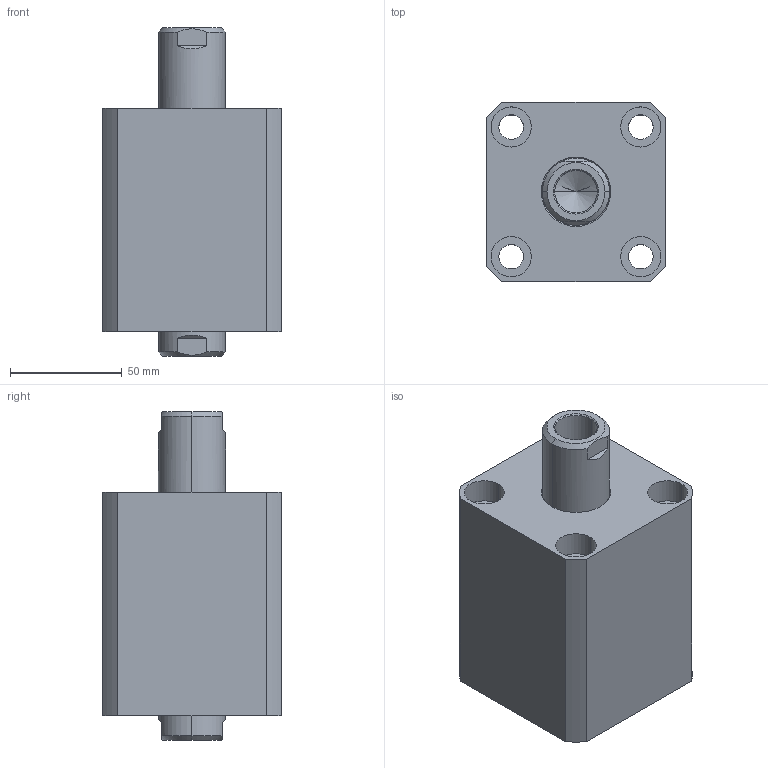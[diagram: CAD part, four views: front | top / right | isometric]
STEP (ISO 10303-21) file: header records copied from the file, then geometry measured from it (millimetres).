
FILE_DESCRIPTION (( 'STEP AP203' ), '1' );
FILE_NAME ('CHTB-SW50-25N.STEP', '2018-05-21T05:40:35', ( '' ), ( '' ), 'SwSTEP 2.0', 'SolidWorks 2015', '' );
FILE_SCHEMA (( 'CONFIG_CONTROL_DESIGN' ));
Length unit declared in the file: millimetre
Products named in the file (4): CHTB-SW50-25N; ヶ裔; 活塞杆SW50-25N; 掛极SW50-25N
Assembly tree (3 placements, depth 2):
  CHTB-SW50-25N
    掛极SW50-25N
    活塞杆SW50-25N
    ヶ裔
Bounding box: 80 x 80 x 147 mm (x, y, z)
Volume: 554218.9 mm3; surface area: 111869.2 mm2
Topology: 3 solids, 3 shells, 225 faces, 529 edges, 331 vertices
Faces by surface type: cylinder 118, plane 46, cone 33, torus 24, bspline 4
Entity records: 9718 total; most frequent: CARTESIAN_POINT 4250, DIRECTION 1106, ORIENTED_EDGE 1042, EDGE_CURVE 521, AXIS2_PLACEMENT_3D 463, VERTEX_POINT 331, EDGE_LOOP 270, CIRCLE 236
